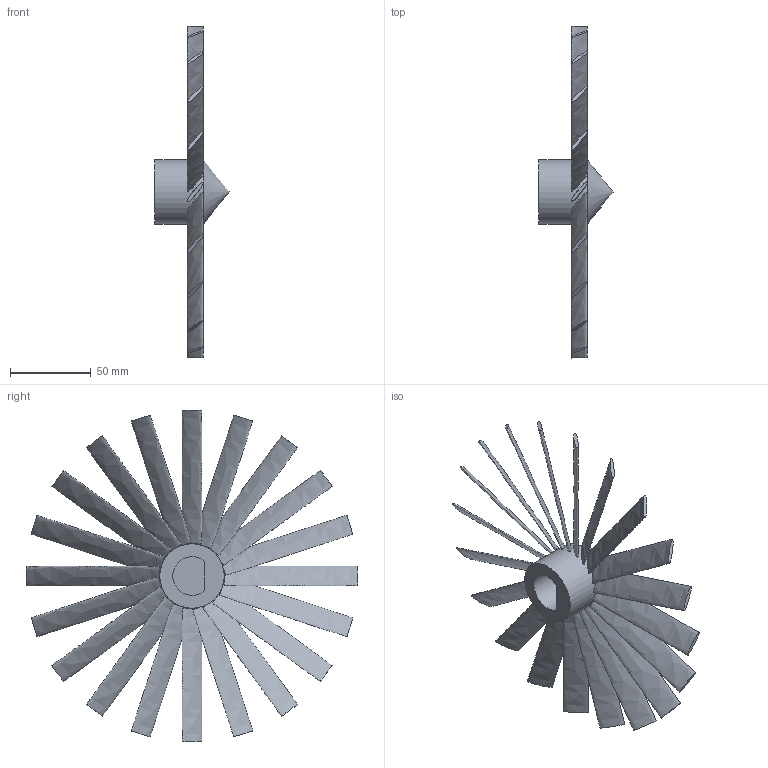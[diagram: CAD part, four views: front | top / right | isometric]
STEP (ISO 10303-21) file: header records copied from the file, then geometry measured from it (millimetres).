
FILE_DESCRIPTION(('STEP AP242'), '1');
FILE_NAME('ﾋⅰ瑰', '', ('UNSPECIFIED'), ('UNSPECIFIED'), 'C3D Converter', 'C3D Toolkit', '');
FILE_SCHEMA(('AP242_MANAGED_MODEL_BASED_3D_ENGINEERING_MIM_LF { 1 0 10303 442 1 1 4 }'));
Length unit declared in the file: millimetre
Bounding box: 46 x 206 x 206 mm (x, y, z)
Volume: 82246.5 mm3; surface area: 64267.3 mm2
Topology: 21 solids, 21 shells, 66 faces, 71 edges, 47 vertices
Faces by surface type: plane 43, bspline 20, cylinder 2, cone 1
Full cylindrical faces by diameter (mm): 40 x1
Entity records: 1552 total; most frequent: CARTESIAN_POINT 661, DIRECTION 106, ORIENTED_EDGE 96, EDGE_LOOP 88, ADVANCED_FACE 66, AXIS2_PLACEMENT_3D 51, EDGE_CURVE 48, VERTEX_POINT 46
